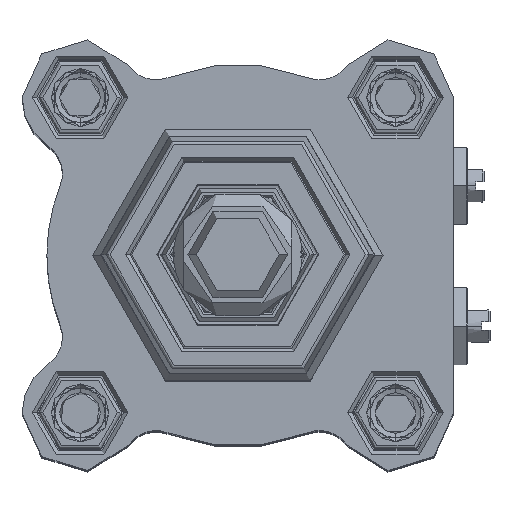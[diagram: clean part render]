
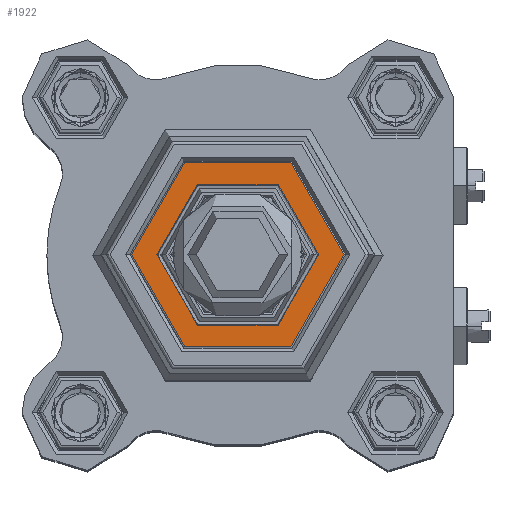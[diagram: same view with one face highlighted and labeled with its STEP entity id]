
A CAD part, top view. The second image highlights one B-rep face of the part: STEP entity #1922.
In plain terms, the highlighted planar face has unit normal (0, 0, 1).
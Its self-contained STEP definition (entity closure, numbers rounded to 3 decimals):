
#1922=ADVANCED_FACE('0:2321',(#3915,#3916),#3917,.F.);
#3915=FACE_OUTER_BOUND('',#6014,.T.);
#3916=FACE_BOUND('',#6015,.T.);
#3917=PLANE('',#6016);
#6014=EDGE_LOOP('',(#11196,#11197));
#6015=EDGE_LOOP('',(#11198,#11199));
#6016=AXIS2_PLACEMENT_3D('',#11200,#11201,#11202);
#11196=ORIENTED_EDGE('',*,*,#14196,.T.);
#11197=ORIENTED_EDGE('',*,*,#13926,.T.);
#11198=ORIENTED_EDGE('',*,*,#13980,.F.);
#11199=ORIENTED_EDGE('',*,*,#14166,.F.);
#11200=CARTESIAN_POINT('',(0.,-12.8,58.1));
#11201=DIRECTION('',(0.0,0.0,-1.0));
#11202=DIRECTION('',(0.0,-1.0,0.0));
#13926=EDGE_CURVE('',#16838,#16840,#16842,.T.);
#13980=EDGE_CURVE('0:3089',#16937,#16940,#16941,.T.);
#14166=EDGE_CURVE('',#16940,#16937,#17192,.T.);
#14196=EDGE_CURVE('0:3083',#16840,#16838,#17230,.T.);
#16838=VERTEX_POINT('',#21881);
#16840=VERTEX_POINT('',#21883);
#16842=CIRCLE('',#21885,12.8);
#16937=VERTEX_POINT('',#21996);
#16940=VERTEX_POINT('',#22000);
#16941=CIRCLE('',#22001,9.75);
#17192=CIRCLE('',#22297,9.75);
#17230=CIRCLE('',#22375,12.8);
#21881=CARTESIAN_POINT('',(12.8,0.,58.1));
#21883=CARTESIAN_POINT('',(-12.8,0.,58.1));
#21885=AXIS2_PLACEMENT_3D('',#25275,#25276,#25277);
#21996=CARTESIAN_POINT('',(-9.75,0.,58.1));
#22000=CARTESIAN_POINT('',(9.75,0.,58.1));
#22001=AXIS2_PLACEMENT_3D('',#25379,#25380,#25381);
#22297=AXIS2_PLACEMENT_3D('',#25655,#25656,#25657);
#22375=AXIS2_PLACEMENT_3D('',#25695,#25696,#25697);
#25275=CARTESIAN_POINT('',(0.,0.,58.1));
#25276=DIRECTION('',(0.0,0.0,1.0));
#25277=DIRECTION('',(-1.0,0.0,0.0));
#25379=CARTESIAN_POINT('',(0.,0.,58.1));
#25380=DIRECTION('',(0.0,0.0,1.0));
#25381=DIRECTION('',(-1.0,0.0,0.0));
#25655=CARTESIAN_POINT('',(0.,0.,58.1));
#25656=DIRECTION('',(0.0,0.0,1.0));
#25657=DIRECTION('',(-1.0,0.0,0.0));
#25695=CARTESIAN_POINT('',(0.,0.,58.1));
#25696=DIRECTION('',(0.0,0.0,1.0));
#25697=DIRECTION('',(-1.0,0.0,0.0));
